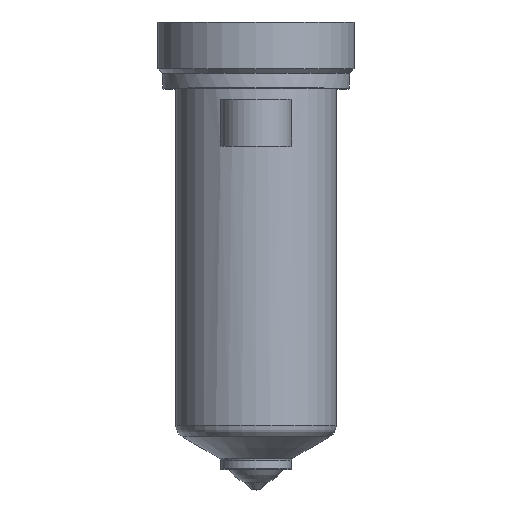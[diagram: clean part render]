
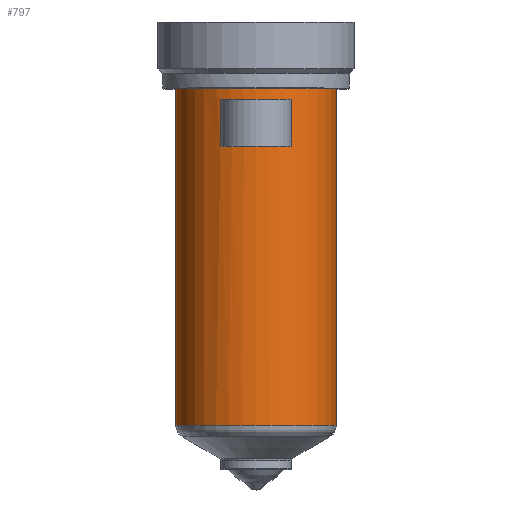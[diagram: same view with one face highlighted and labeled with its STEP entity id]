
A CAD part, top view. The second image highlights one B-rep face of the part: STEP entity #797.
In plain terms, the highlighted cylindrical face has radius 18 mm (diameter 36 mm), a partial arc.
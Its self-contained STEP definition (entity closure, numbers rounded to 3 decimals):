
#187=DIRECTION('',(0.,-1.,0.));
#188=VECTOR('',#187,75.506);
#189=CARTESIAN_POINT('',(18.,0.,0.));
#190=LINE('',#189,#188);
#191=CARTESIAN_POINT('',(0.,-75.506,0.));
#192=DIRECTION('',(0.,1.,0.));
#193=DIRECTION('',(-1.,0.,0.));
#194=AXIS2_PLACEMENT_3D('',#191,#192,#193);
#196=DIRECTION('',(0.,1.,0.));
#197=VECTOR('',#196,75.506);
#198=CARTESIAN_POINT('',(-18.,-75.506,0.));
#199=LINE('',#198,#197);
#200=CARTESIAN_POINT('',(0.,0.,0.));
#201=DIRECTION('',(0.,1.,0.));
#202=DIRECTION('',(-1.,0.,0.));
#203=AXIS2_PLACEMENT_3D('',#200,#201,#202);
#367=DIRECTION('',(0.,-1.,0.));
#368=VECTOR('',#367,10.5);
#369=CARTESIAN_POINT('',(-8.,-2.5,16.125));
#370=LINE('',#369,#368);
#371=CARTESIAN_POINT('',(0.,-13.,0.));
#372=DIRECTION('',(0.,1.,0.));
#373=DIRECTION('',(-0.444,0.,0.896));
#374=AXIS2_PLACEMENT_3D('',#371,#372,#373);
#397=CARTESIAN_POINT('',(0.,-2.5,0.));
#398=DIRECTION('',(0.,-1.,0.));
#399=DIRECTION('',(0.444,0.,0.896));
#400=AXIS2_PLACEMENT_3D('',#397,#398,#399);
#415=DIRECTION('',(0.,-1.,0.));
#416=VECTOR('',#415,10.5);
#417=CARTESIAN_POINT('',(8.,-2.5,16.125));
#418=LINE('',#417,#416);
#476=CARTESIAN_POINT('',(-18.,0.,0.));
#477=CARTESIAN_POINT('',(18.,0.,0.));
#478=VERTEX_POINT('',#476);
#479=VERTEX_POINT('',#477);
#488=CARTESIAN_POINT('',(-8.,-2.5,16.125));
#489=VERTEX_POINT('',#488);
#490=CARTESIAN_POINT('',(8.,-2.5,16.125));
#491=VERTEX_POINT('',#490);
#524=CARTESIAN_POINT('',(18.,-75.506,0.));
#525=VERTEX_POINT('',#524);
#534=CARTESIAN_POINT('',(-18.,-75.506,0.));
#535=VERTEX_POINT('',#534);
#556=CARTESIAN_POINT('',(-8.,-13.,16.125));
#557=CARTESIAN_POINT('',(8.,-13.,16.125));
#558=VERTEX_POINT('',#556);
#559=VERTEX_POINT('',#557);
#775=CARTESIAN_POINT('',(0.,16.4,0.));
#776=DIRECTION('',(0.,-1.,0.));
#777=DIRECTION('',(-1.,0.,0.));
#778=AXIS2_PLACEMENT_3D('',#775,#776,#777);
#779=CYLINDRICAL_SURFACE('',#778,18.);
#780=ORIENTED_EDGE('',*,*,#769,.T.);
#782=ORIENTED_EDGE('',*,*,#781,.F.);
#783=ORIENTED_EDGE('',*,*,#765,.T.);
#784=ORIENTED_EDGE('',*,*,#755,.T.);
#785=EDGE_LOOP('',(#780,#782,#783,#784));
#786=FACE_OUTER_BOUND('',#785,.F.);
#788=ORIENTED_EDGE('',*,*,#787,.T.);
#790=ORIENTED_EDGE('',*,*,#789,.T.);
#792=ORIENTED_EDGE('',*,*,#791,.F.);
#794=ORIENTED_EDGE('',*,*,#793,.T.);
#795=EDGE_LOOP('',(#788,#790,#792,#794));
#796=FACE_BOUND('',#795,.F.);
#797=ADVANCED_FACE('',(#786,#796),#779,.T.);
#195=CIRCLE('',#194,18.);
#204=CIRCLE('',#203,18.);
#375=CIRCLE('',#374,18.);
#401=CIRCLE('',#400,18.);
#755=EDGE_CURVE('',#478,#479,#204,.T.);
#765=EDGE_CURVE('',#535,#478,#199,.T.);
#769=EDGE_CURVE('',#479,#525,#190,.T.);
#781=EDGE_CURVE('',#535,#525,#195,.T.);
#787=EDGE_CURVE('',#489,#558,#370,.T.);
#789=EDGE_CURVE('',#558,#559,#375,.T.);
#791=EDGE_CURVE('',#491,#559,#418,.T.);
#793=EDGE_CURVE('',#491,#489,#401,.T.);
